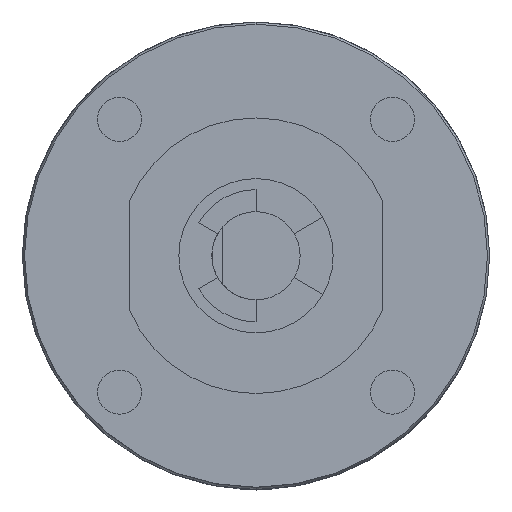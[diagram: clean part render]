
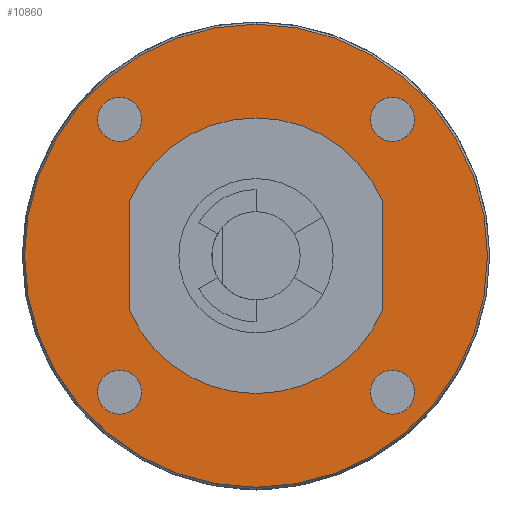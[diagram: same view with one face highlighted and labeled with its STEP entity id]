
A CAD part, front view. The second image highlights one B-rep face of the part: STEP entity #10860.
In plain terms, the highlighted planar face has unit normal (0, -1, 0) as drawn and (0, 1, 0) by its records, which use the part's own axes.
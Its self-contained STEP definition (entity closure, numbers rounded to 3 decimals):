
#9777=CARTESIAN_POINT('',(0.,52.6,0.));
#9778=DIRECTION('',(0.,1.,0.));
#9779=DIRECTION('',(0.,0.,1.));
#9780=AXIS2_PLACEMENT_3D('',#9777,#9778,#9779);
#9782=CARTESIAN_POINT('',(0.,52.6,0.));
#9783=DIRECTION('',(0.,1.,0.));
#9784=DIRECTION('',(0.,0.,-1.));
#9785=AXIS2_PLACEMENT_3D('',#9782,#9783,#9784);
#9787=CARTESIAN_POINT('',(-12.374,52.6,12.374));
#9788=DIRECTION('',(0.,-1.,0.));
#9789=DIRECTION('',(0.,0.,-1.));
#9790=AXIS2_PLACEMENT_3D('',#9787,#9788,#9789);
#9792=CARTESIAN_POINT('',(-12.374,52.6,12.374));
#9793=DIRECTION('',(0.,-1.,0.));
#9794=DIRECTION('',(0.,0.,1.));
#9795=AXIS2_PLACEMENT_3D('',#9792,#9793,#9794);
#9797=CARTESIAN_POINT('',(-12.374,52.6,-12.374));
#9798=DIRECTION('',(0.,-1.,0.));
#9799=DIRECTION('',(0.,0.,-1.));
#9800=AXIS2_PLACEMENT_3D('',#9797,#9798,#9799);
#9802=CARTESIAN_POINT('',(-12.374,52.6,-12.374));
#9803=DIRECTION('',(0.,-1.,0.));
#9804=DIRECTION('',(0.,0.,1.));
#9805=AXIS2_PLACEMENT_3D('',#9802,#9803,#9804);
#9807=CARTESIAN_POINT('',(12.374,52.6,-12.374));
#9808=DIRECTION('',(0.,-1.,0.));
#9809=DIRECTION('',(0.,0.,-1.));
#9810=AXIS2_PLACEMENT_3D('',#9807,#9808,#9809);
#9812=CARTESIAN_POINT('',(12.374,52.6,-12.374));
#9813=DIRECTION('',(0.,-1.,0.));
#9814=DIRECTION('',(0.,0.,1.));
#9815=AXIS2_PLACEMENT_3D('',#9812,#9813,#9814);
#9817=CARTESIAN_POINT('',(12.374,52.6,12.374));
#9818=DIRECTION('',(0.,-1.,0.));
#9819=DIRECTION('',(0.,0.,-1.));
#9820=AXIS2_PLACEMENT_3D('',#9817,#9818,#9819);
#9822=CARTESIAN_POINT('',(12.374,52.6,12.374));
#9823=DIRECTION('',(0.,-1.,0.));
#9824=DIRECTION('',(0.,0.,1.));
#9825=AXIS2_PLACEMENT_3D('',#9822,#9823,#9824);
#9827=DIRECTION('',(0.,0.,1.));
#9828=VECTOR('',#9827,9.798);
#9829=CARTESIAN_POINT('',(11.5,52.6,-4.899));
#9830=LINE('',#9829,#9828);
#9831=CARTESIAN_POINT('',(0.,52.6,0.));
#9832=DIRECTION('',(0.,-1.,0.));
#9833=DIRECTION('',(0.,0.,-1.));
#9834=AXIS2_PLACEMENT_3D('',#9831,#9832,#9833);
#9836=CARTESIAN_POINT('',(0.,52.6,0.));
#9837=DIRECTION('',(0.,-1.,0.));
#9838=DIRECTION('',(-0.92,0.,-0.392));
#9839=AXIS2_PLACEMENT_3D('',#9836,#9837,#9838);
#9841=DIRECTION('',(0.,0.,-1.));
#9842=VECTOR('',#9841,9.798);
#9843=CARTESIAN_POINT('',(-11.5,52.6,4.899));
#9844=LINE('',#9843,#9842);
#9845=CARTESIAN_POINT('',(0.,52.6,0.));
#9846=DIRECTION('',(0.,-1.,0.));
#9847=DIRECTION('',(0.,0.,1.));
#9848=AXIS2_PLACEMENT_3D('',#9845,#9846,#9847);
#9850=CARTESIAN_POINT('',(0.,52.6,0.));
#9851=DIRECTION('',(0.,-1.,0.));
#9852=DIRECTION('',(0.92,0.,0.392));
#9853=AXIS2_PLACEMENT_3D('',#9850,#9851,#9852);
#10361=CARTESIAN_POINT('',(0.,52.6,21.));
#10362=CARTESIAN_POINT('',(0.,52.6,-21.));
#10363=VERTEX_POINT('',#10361);
#10364=VERTEX_POINT('',#10362);
#10407=CARTESIAN_POINT('',(12.374,52.6,-10.374));
#10408=CARTESIAN_POINT('',(12.374,52.6,-14.374));
#10409=VERTEX_POINT('',#10407);
#10410=VERTEX_POINT('',#10408);
#10431=CARTESIAN_POINT('',(0.,52.6,-12.5));
#10432=CARTESIAN_POINT('',(11.5,52.6,-4.899));
#10433=VERTEX_POINT('',#10431);
#10434=VERTEX_POINT('',#10432);
#10469=CARTESIAN_POINT('',(-12.374,52.6,-10.374));
#10470=CARTESIAN_POINT('',(-12.374,52.6,-14.374));
#10471=VERTEX_POINT('',#10469);
#10472=VERTEX_POINT('',#10470);
#10473=CARTESIAN_POINT('',(-12.374,52.6,10.374));
#10475=VERTEX_POINT('',#10473);
#10493=CARTESIAN_POINT('',(-12.374,52.6,14.374));
#10494=VERTEX_POINT('',#10493);
#10511=CARTESIAN_POINT('',(-11.5,52.6,-4.899));
#10512=VERTEX_POINT('',#10511);
#10523=CARTESIAN_POINT('',(12.374,52.6,14.374));
#10524=CARTESIAN_POINT('',(12.374,52.6,10.374));
#10525=VERTEX_POINT('',#10523);
#10526=VERTEX_POINT('',#10524);
#10539=CARTESIAN_POINT('',(0.,52.6,12.5));
#10540=CARTESIAN_POINT('',(-11.5,52.6,4.899));
#10541=VERTEX_POINT('',#10539);
#10542=VERTEX_POINT('',#10540);
#10543=CARTESIAN_POINT('',(11.5,52.6,4.899));
#10544=VERTEX_POINT('',#10543);
#10813=CARTESIAN_POINT('',(0.,52.6,0.));
#10814=DIRECTION('',(0.,1.,0.));
#10815=DIRECTION('',(0.,0.,1.));
#10816=AXIS2_PLACEMENT_3D('',#10813,#10814,#10815);
#10817=PLANE('',#10816);
#10818=ORIENTED_EDGE('',*,*,#10793,.F.);
#10819=ORIENTED_EDGE('',*,*,#10806,.F.);
#10820=EDGE_LOOP('',(#10818,#10819));
#10821=FACE_OUTER_BOUND('',#10820,.F.);
#10823=ORIENTED_EDGE('',*,*,#10822,.F.);
#10825=ORIENTED_EDGE('',*,*,#10824,.F.);
#10826=EDGE_LOOP('',(#10823,#10825));
#10827=FACE_BOUND('',#10826,.F.);
#10829=ORIENTED_EDGE('',*,*,#10828,.F.);
#10831=ORIENTED_EDGE('',*,*,#10830,.F.);
#10832=EDGE_LOOP('',(#10829,#10831));
#10833=FACE_BOUND('',#10832,.F.);
#10835=ORIENTED_EDGE('',*,*,#10834,.F.);
#10837=ORIENTED_EDGE('',*,*,#10836,.F.);
#10838=EDGE_LOOP('',(#10835,#10837));
#10839=FACE_BOUND('',#10838,.F.);
#10841=ORIENTED_EDGE('',*,*,#10840,.F.);
#10843=ORIENTED_EDGE('',*,*,#10842,.F.);
#10844=EDGE_LOOP('',(#10841,#10843));
#10845=FACE_BOUND('',#10844,.F.);
#10847=ORIENTED_EDGE('',*,*,#10846,.F.);
#10849=ORIENTED_EDGE('',*,*,#10848,.F.);
#10851=ORIENTED_EDGE('',*,*,#10850,.F.);
#10853=ORIENTED_EDGE('',*,*,#10852,.F.);
#10855=ORIENTED_EDGE('',*,*,#10854,.F.);
#10857=ORIENTED_EDGE('',*,*,#10856,.F.);
#10858=EDGE_LOOP('',(#10847,#10849,#10851,#10853,#10855,#10857));
#10859=FACE_BOUND('',#10858,.F.);
#10860=ADVANCED_FACE('',(#10821,#10827,#10833,#10839,#10845,#10859),#10817,.T.);
#9781=CIRCLE('',#9780,21.);
#9786=CIRCLE('',#9785,21.);
#9791=CIRCLE('',#9790,2.);
#9796=CIRCLE('',#9795,2.);
#9801=CIRCLE('',#9800,2.);
#9806=CIRCLE('',#9805,2.);
#9811=CIRCLE('',#9810,2.);
#9816=CIRCLE('',#9815,2.);
#9821=CIRCLE('',#9820,2.);
#9826=CIRCLE('',#9825,2.);
#9835=CIRCLE('',#9834,12.5);
#9840=CIRCLE('',#9839,12.5);
#9849=CIRCLE('',#9848,12.5);
#9854=CIRCLE('',#9853,12.5);
#10793=EDGE_CURVE('',#10363,#10364,#9781,.T.);
#10806=EDGE_CURVE('',#10364,#10363,#9786,.T.);
#10822=EDGE_CURVE('',#10475,#10494,#9791,.T.);
#10824=EDGE_CURVE('',#10494,#10475,#9796,.T.);
#10828=EDGE_CURVE('',#10472,#10471,#9801,.T.);
#10830=EDGE_CURVE('',#10471,#10472,#9806,.T.);
#10834=EDGE_CURVE('',#10410,#10409,#9811,.T.);
#10836=EDGE_CURVE('',#10409,#10410,#9816,.T.);
#10840=EDGE_CURVE('',#10526,#10525,#9821,.T.);
#10842=EDGE_CURVE('',#10525,#10526,#9826,.T.);
#10846=EDGE_CURVE('',#10434,#10544,#9830,.T.);
#10848=EDGE_CURVE('',#10433,#10434,#9835,.T.);
#10850=EDGE_CURVE('',#10512,#10433,#9840,.T.);
#10852=EDGE_CURVE('',#10542,#10512,#9844,.T.);
#10854=EDGE_CURVE('',#10541,#10542,#9849,.T.);
#10856=EDGE_CURVE('',#10544,#10541,#9854,.T.);
